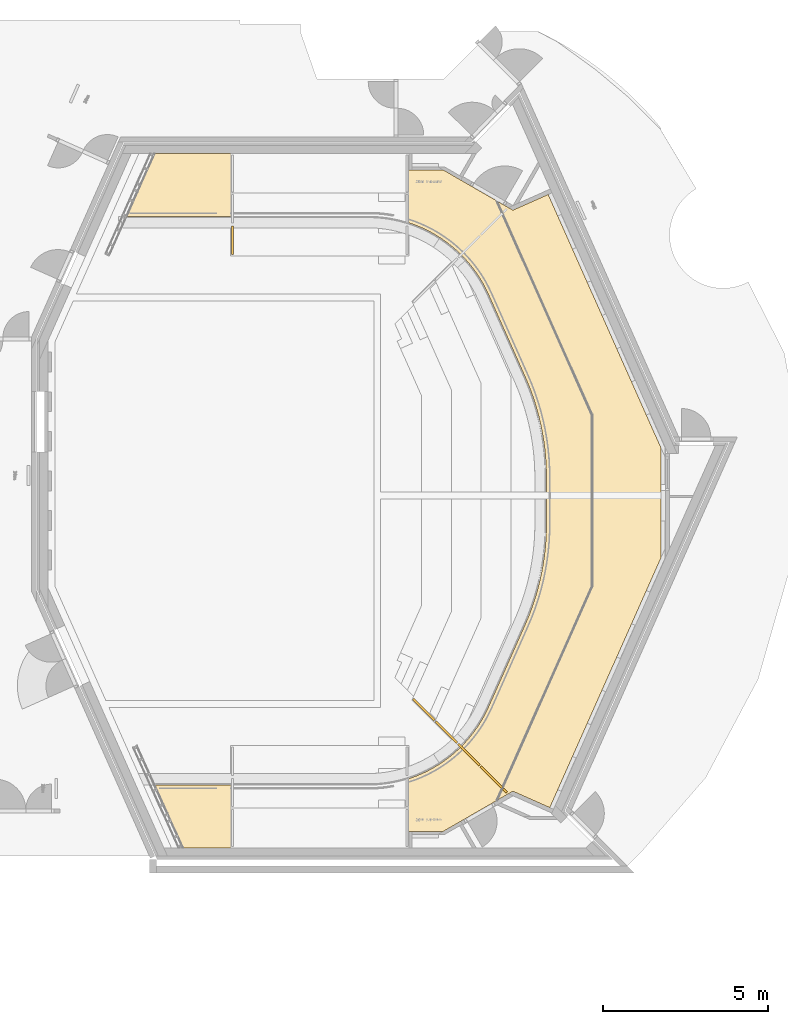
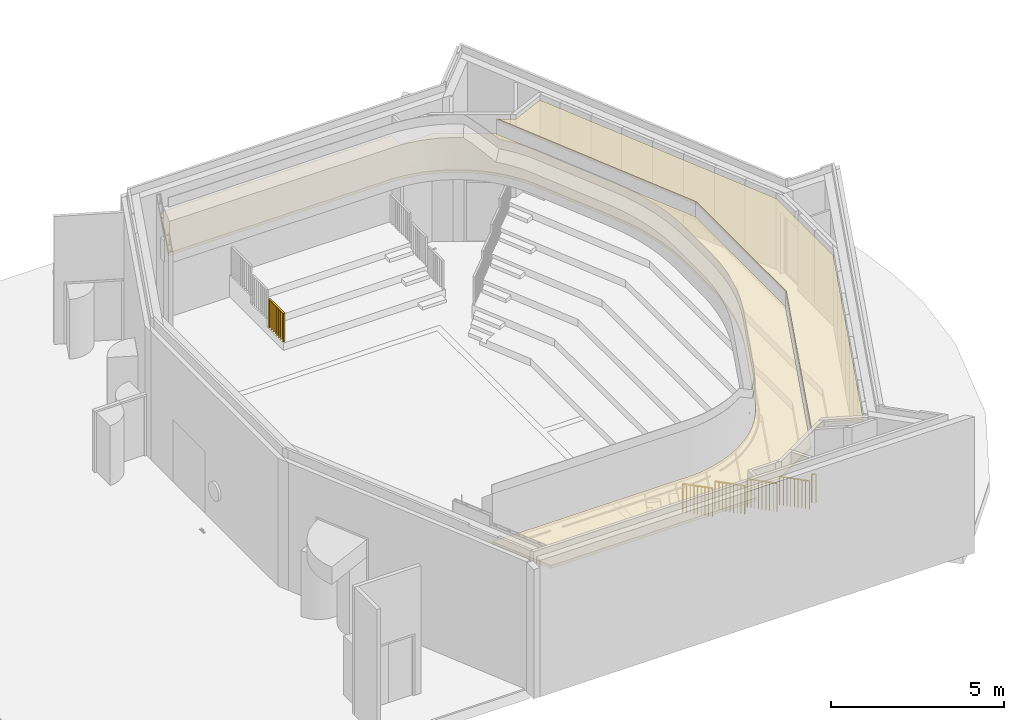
# One storey, part 15 of 19: 6 railings, 2 coverings.
"""IFC2X3 building model written with IfcOpenShell, lengths in millimetres."""

from ifc_helpers import new_model, entity, si_unit, converted_unit, derived_unit, direction, frame, frame_2d, origin, origin_2d_with_axis, place, context, subcontext, project, spatial, polyline, circle_curve, parameter, trimmed, segment, composite_curve, rectangle, outline, extrude, material, material_list, layer, layer_set, layer_usage, type_object, element, save


model = new_model("IFC2X3")

# Units and contexts
model_context = context("Model", 3, precision=0.01, world=origin(), true_north=direction((6.123031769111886e-17, 1.0)))
body_context = subcontext(model_context, "Body", "Model", "MODEL_VIEW")
ifc_project = project(units=[si_unit("LENGTHUNIT", "METRE", prefix="MILLI"), si_unit("AREAUNIT", "SQUARE_METRE"), si_unit("VOLUMEUNIT", "CUBIC_METRE"), converted_unit("PLANEANGLEUNIT", "DEGREE", entity("IfcRatioMeasure", 0.017453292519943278), si_unit("PLANEANGLEUNIT", "RADIAN"), dimensions=[0, 0, 0, 0, 0, 0, 0]), si_unit("MASSUNIT", "GRAM", prefix="KILO"), derived_unit("MASSDENSITYUNIT", [(si_unit("MASSUNIT", "GRAM", prefix="KILO"), 1), (si_unit("LENGTHUNIT", "METRE"), -3)]), derived_unit("MOMENTOFINERTIAUNIT", [(si_unit("LENGTHUNIT", "METRE"), 4)]), si_unit("TIMEUNIT", "SECOND"), si_unit("FREQUENCYUNIT", "HERTZ"), si_unit("THERMODYNAMICTEMPERATUREUNIT", "DEGREE_CELSIUS"), derived_unit("THERMALTRANSMITTANCEUNIT", [(si_unit("MASSUNIT", "GRAM", prefix="KILO"), 1), (si_unit("THERMODYNAMICTEMPERATUREUNIT", "KELVIN"), -1), (si_unit("TIMEUNIT", "SECOND"), -3)]), derived_unit("VOLUMETRICFLOWRATEUNIT", [(si_unit("LENGTHUNIT", "METRE"), 3), (si_unit("TIMEUNIT", "SECOND"), -1)]), derived_unit("MASSFLOWRATEUNIT", [(si_unit("MASSUNIT", "GRAM", prefix="KILO"), 1), (si_unit("TIMEUNIT", "SECOND"), -1)]), derived_unit("ROTATIONALFREQUENCYUNIT", [(si_unit("TIMEUNIT", "SECOND"), -1)]), si_unit("ELECTRICCURRENTUNIT", "AMPERE"), si_unit("ELECTRICVOLTAGEUNIT", "VOLT"), si_unit("POWERUNIT", "WATT"), si_unit("FORCEUNIT", "NEWTON", prefix="KILO"), si_unit("ILLUMINANCEUNIT", "LUX"), si_unit("LUMINOUSFLUXUNIT", "LUMEN"), si_unit("LUMINOUSINTENSITYUNIT", "CANDELA"), derived_unit("USERDEFINED", [(si_unit("MASSUNIT", "GRAM", prefix="KILO"), -1), (si_unit("LENGTHUNIT", "METRE"), -2), (si_unit("TIMEUNIT", "SECOND"), 3), (si_unit("LUMINOUSFLUXUNIT", "LUMEN"), 1)]), derived_unit("SOUNDPOWERUNIT", [(si_unit("MASSUNIT", "GRAM", prefix="KILO"), 1), (si_unit("LENGTHUNIT", "METRE"), 2), (si_unit("TIMEUNIT", "SECOND"), -3)]), derived_unit("SOUNDPRESSUREUNIT", [(si_unit("MASSUNIT", "GRAM", prefix="KILO"), 1), (si_unit("LENGTHUNIT", "METRE"), -1), (si_unit("TIMEUNIT", "SECOND"), -2)]), derived_unit("LINEARVELOCITYUNIT", [(si_unit("LENGTHUNIT", "METRE"), 1), (si_unit("TIMEUNIT", "SECOND"), -1)]), si_unit("PRESSUREUNIT", "PASCAL"), derived_unit("USERDEFINED", [(si_unit("LENGTHUNIT", "METRE"), -2), (si_unit("MASSUNIT", "GRAM", prefix="KILO"), 1), (si_unit("TIMEUNIT", "SECOND"), -2)]), derived_unit("LINEARFORCEUNIT", [(si_unit("MASSUNIT", "GRAM", prefix="KILO"), 1), (si_unit("LENGTHUNIT", "METRE"), 1), (si_unit("TIMEUNIT", "SECOND"), -2), (si_unit("LENGTHUNIT", "METRE"), -1)]), derived_unit("PLANARFORCEUNIT", [(si_unit("MASSUNIT", "GRAM", prefix="KILO"), 1), (si_unit("LENGTHUNIT", "METRE"), 1), (si_unit("TIMEUNIT", "SECOND"), -2), (si_unit("LENGTHUNIT", "METRE"), -2)])], contexts=[model_context])

# Site, building, storey
site_placement = place(None, frame((-10000.0, -10000.0, 0.0)))
site = spatial("IfcSite", under=ifc_project, at=site_placement, Name="Default", CompositionType="ELEMENT")
building_placement = place(site_placement, origin())
building = spatial("IfcBuilding", under=site, at=building_placement, CompositionType="ELEMENT")
storey_placement = place(building_placement, frame((0.0, 0.0, 4200.0)))
storey = spatial("IfcBuildingStorey", under=building, at=storey_placement, Name="01 1e verdieping", CompositionType="ELEMENT", Elevation=4200.000000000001)

# Coverings
ifc_material_1 = material(Name="NLRS_ontwerpmateriaal grijs")
ifc_layer = layer(ifc_material_1, 100.0)
ifc_layer_set = layer_set([ifc_layer], Name="Compound Ceiling:NLRS_45_CEI_ontwerpplafond 100mm_ags")
ifc_layer_usage_1 = layer_usage(ifc_layer_set, "AXIS3", "POSITIVE", 0.0)
covering_type_1 = type_object("IfcCoveringType", Name="Compound Ceiling:NLRS_45_CEI_ontwerpplafond 100mm_ags", PredefinedType="CEILING")
covering_1_placement = place(storey_placement, origin())
element("IfcCovering", 1, at=covering_1_placement, inside=storey, type_object=covering_type_1, material=ifc_layer_usage_1, Name="Compound Ceiling:NLRS_45_CEI_ontwerpplafond 100mm_ags", ObjectType="Compound Ceiling:NLRS_45_CEI_ontwerpplafond 100mm_ags", PredefinedType="CEILING", context=body_context, shape_type="SweptSolid", body=[
    extrude(outline(composite_curve([segment(polyline([(-8799.853885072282, -8613.641272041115), (-7953.9193829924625, -10513.641272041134)]), True, "CONTINUOUS"), segment(polyline([(-7953.9193829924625, -10513.641272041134), (-255.0343783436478, -10513.641272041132)]), True, "CONTINUOUS"), segment(polyline([(-255.0343783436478, -10513.641272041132), (-255.03437834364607, -10013.641272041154)]), True, "CONTINUOUS"), segment(polyline([(-255.03437834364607, -10013.641272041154), (792.1856637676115, -10013.641272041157)]), True, "CONTINUOUS"), segment(polyline([(792.1856637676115, -10013.641272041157), (2392.8172703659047, -9089.5161830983)]), True, "CONTINUOUS"), segment(polyline([(2392.8172703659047, -9089.5161830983), (5284.964833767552, -2593.6464001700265)]), True, "CONTINUOUS"), segment(polyline([(5284.964833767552, -2593.6464001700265), (5284.964833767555, 2593.3619196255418)]), True, "CONTINUOUS"), segment(polyline([(5284.964833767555, 2593.3619196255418), (2392.816109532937, 9089.234309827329)]), True, "CONTINUOUS"), segment(polyline([(2392.816109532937, 9089.234309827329), (792.1856637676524, 10013.35872856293)]), True, "CONTINUOUS"), segment(polyline([(792.1856637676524, 10013.35872856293), (-255.03437834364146, 10013.358728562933)]), True, "CONTINUOUS"), segment(polyline([(-255.03437834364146, 10013.358728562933), (-255.03437834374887, 10513.3587285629)]), True, "CONTINUOUS"), segment(polyline([(-255.03437834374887, 10513.3587285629), (-7098.385236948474, 10513.358728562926)]), True, "CONTINUOUS"), segment(polyline([(-7098.385236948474, 10513.358728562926), (-7957.471467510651, 8614.567430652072)]), True, "CONTINUOUS"), segment(polyline([(-7957.471467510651, 8614.567430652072), (-1372.4769191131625, 8614.56743065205)]), True, "CONTINUOUS"), segment(trimmed(circle_curve(frame_2d((-1498.9628833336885, 4616.568556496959), x_axis=(1.0, 0.0)), 3999.9992121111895), [parameter(24.32556288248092)], [parameter(88.18791958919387)], True, "PARAMETER"), False, "CONTINUOUS"), segment(polyline([(2145.914743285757, 6264.252016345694), (3261.5558341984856, 3757.4471048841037)]), True, "CONTINUOUS"), segment(trimmed(circle_curve(frame_2d((-3590.0351662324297, 706.9226022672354), x_axis=(1.0, 0.0)), 7499.999212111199), [parameter(359.99999999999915)], [parameter(24.00000000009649)], True, "PARAMETER"), False, "CONTINUOUS"), segment(polyline([(3909.9640458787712, 706.9226022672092), (3909.9640458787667, -707.2051457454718)]), True, "CONTINUOUS"), segment(trimmed(circle_curve(frame_2d((-3590.035166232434, -707.2051457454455), x_axis=(1.0, 0.0)), 7499.999212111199), [parameter(335.9999999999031)], [parameter(0.0)], True, "PARAMETER"), False, "CONTINUOUS"), segment(polyline([(3261.5558341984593, -3757.7296483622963), (2145.762406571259, -6263.842718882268)]), True, "CONTINUOUS"), segment(trimmed(circle_curve(frame_2d((-1498.8813736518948, -4615.6420599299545), x_axis=(1.0, 0.0)), 3999.9992121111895), [parameter(271.81192731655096)], [parameter(335.66630672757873)], True, "PARAMETER"), False, "CONTINUOUS"), segment(polyline([(-1372.4060920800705, -8613.641272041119), (-8799.853885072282, -8613.641272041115)]), True, "CONTINUOUS")], self_intersect=False)), frame((36965.03437834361, 38638.358727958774, 3725.0), z_axis=(0.0, 0.0, -1.0), x_axis=(1.0, 0.0, 0.0)), (0.0, 0.0, -1.0), 100.0),
])
ifc_layer_usage_2 = layer_usage(ifc_layer_set, "AXIS3", "POSITIVE", 0.0)
covering_type_2 = type_object("IfcCoveringType", Name="Compound Ceiling:NLRS_45_CEI_ontwerpplafond 100mm_ags", PredefinedType="CEILING")
covering_2_placement = place(storey_placement, origin())
element("IfcCovering", 2, at=covering_2_placement, inside=storey, type_object=covering_type_2, material=ifc_layer_usage_2, Name="Compound Ceiling:NLRS_45_CEI_ontwerpplafond 100mm_ags", ObjectType="Compound Ceiling:NLRS_45_CEI_ontwerpplafond 100mm_ags", PredefinedType="CEILING", context=body_context, shape_type="SweptSolid", body=[
    extrude(outline(polyline([(-3378.6640063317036, 8666.575567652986), (-3378.6640063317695, 251.94750402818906), (-2033.1011817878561, -2770.2360814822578), (4132.1071372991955, -8321.414585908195), (4950.58003162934, -7412.614215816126), (5483.001462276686, -7468.573963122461), (220.40507240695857, -2730.1108902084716), (-1893.6640063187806, 2018.1660031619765), (-1893.664006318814, 9099.685094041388), (-2208.336496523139, 8666.575567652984), (-3378.6640063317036, 8666.575567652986)])), frame((41365.91312613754, 38623.41011616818, 4245.0), z_axis=(0.0, 0.0, -1.0), x_axis=(-0.9135454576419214, -0.4067366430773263, 0.0)), (0.0, 0.0, -1.0), 100.0),
])

# Railings
ifc_material_2 = material(Name="Default Metal")
ifc_material_list_1 = material_list([ifc_material_2, ifc_material_2, ifc_material_2, ifc_material_2, ifc_material_2, ifc_material_2, ifc_material_2, ifc_material_2, ifc_material_2, ifc_material_2, ifc_material_2, ifc_material_2])
railing_1_placement = place(storey_placement, origin())
element("IfcRailing", 3, at=railing_1_placement, inside=storey, material=ifc_material_list_1, Name="Railing:NLRS_34_RAI_spijlenhekwerk hoofdtribune", ObjectType="Railing:NLRS_34_RAI_spijlenhekwerk hoofdtribune", PredefinedType="NOTDEFINED", context=body_context, shape_type="SweptSolid", body=[
    extrude(rectangle(XDim=59.999999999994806, YDim=10.00000000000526, at=origin_2d_with_axis()), frame((37477.772772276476, 31997.019771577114, 545.0), z_axis=(0.0, 0.0, 1.0), x_axis=(-0.7071067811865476, -0.7071067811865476, 0.0)), (0.0, 0.0, 1.0), 989.9999999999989),
    extrude(rectangle(XDim=59.999999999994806, YDim=10.00000000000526, at=origin_2d_with_axis()), frame((37399.99102634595, 32074.80151750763, 545.0), z_axis=(0.0, 0.0, 1.0), x_axis=(-0.7071067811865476, -0.7071067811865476, 0.0)), (0.0, 0.0, 1.0), 989.9999999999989),
    extrude(rectangle(XDim=59.999999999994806, YDim=10.00000000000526, at=frame_2d((3.062439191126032e-12, 3.062439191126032e-12), x_axis=(1.0, 0.0))), frame((37322.20928041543, 32152.583263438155, 545.0), z_axis=(0.0, 0.0, 1.0), x_axis=(-0.7071067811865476, -0.7071067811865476, 0.0)), (0.0, 0.0, 1.0), 989.9999999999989),
    extrude(rectangle(XDim=59.999999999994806, YDim=10.00000000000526, at=frame_2d((3.062439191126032e-12, -3.062439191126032e-12), x_axis=(1.0, 0.0))), frame((37244.427534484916, 32230.365009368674, 545.0), z_axis=(0.0, 0.0, 1.0), x_axis=(-0.7071067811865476, -0.7071067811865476, 0.0)), (0.0, 0.0, 1.0), 989.9999999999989),
    extrude(rectangle(XDim=59.999999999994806, YDim=10.00000000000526, at=frame_2d((3.062439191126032e-12, -3.062439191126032e-12), x_axis=(1.0, 0.0))), frame((37166.6457885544, 32308.146755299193, 545.0), z_axis=(0.0, 0.0, 1.0), x_axis=(-0.7071067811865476, -0.7071067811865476, 0.0)), (0.0, 0.0, 1.0), 989.9999999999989),
    extrude(rectangle(XDim=59.999999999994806, YDim=10.00000000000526, at=origin_2d_with_axis()), frame((37088.86404262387, 32385.928501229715, 545.0), z_axis=(0.0, 0.0, 1.0), x_axis=(-0.7071067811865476, -0.7071067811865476, 0.0)), (0.0, 0.0, 1.0), 989.9999999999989),
    extrude(rectangle(XDim=59.999999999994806, YDim=10.00000000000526, at=origin_2d_with_axis()), frame((37011.082296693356, 32463.710247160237, 545.0), z_axis=(0.0, 0.0, 1.0), x_axis=(-0.7071067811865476, -0.7071067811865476, 0.0)), (0.0, 0.0, 1.0), 989.9999999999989),
    extrude(rectangle(XDim=59.999999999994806, YDim=10.00000000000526, at=origin_2d_with_axis()), frame((36933.30055076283, 32541.491993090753, 545.0), z_axis=(0.0, 0.0, 1.0), x_axis=(-0.7071067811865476, -0.7071067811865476, 0.0)), (0.0, 0.0, 1.0), 989.9999999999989),
    extrude(rectangle(XDim=59.999999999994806, YDim=10.00000000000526, at=frame_2d((-3.062439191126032e-12, -3.062439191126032e-12), x_axis=(1.0, 0.0))), frame((36855.51880483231, 32619.27373902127, 545.0), z_axis=(0.0, 0.0, 1.0), x_axis=(-0.7071067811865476, -0.7071067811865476, 0.0)), (0.0, 0.0, 1.0), 989.9999999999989),
    extrude(rectangle(XDim=59.999999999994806, YDim=10.00000000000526, at=origin_2d_with_axis()), frame((37484.84384008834, 31989.948703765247, 545.0), z_axis=(0.0, 0.0, 1.0), x_axis=(-0.7071067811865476, -0.7071067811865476, 0.0)), (0.0, 0.0, 1.0), 989.9999999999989),
    extrude(rectangle(XDim=59.999999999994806, YDim=10.00000000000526, at=origin_2d_with_axis()), frame((36848.44773702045, 32626.34480683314, 545.0), z_axis=(0.0, 0.0, 1.0), x_axis=(-0.7071067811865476, -0.7071067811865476, 0.0)), (0.0, 0.0, 1.0), 989.9999999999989),
    extrude(rectangle(XDim=900.0000000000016, YDim=59.9999999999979, at=frame_2d((-3.097966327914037e-12, -1.5987211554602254e-14), x_axis=(1.0, 0.0))), frame((37166.64578855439, 32308.146755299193, 1535.0), z_axis=(0.0, 0.0, 1.0), x_axis=(0.7071067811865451, -0.70710678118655, 0.0)), (0.0, 0.0, 1.0), 9.999999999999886),
])
ifc_material_list_2 = material_list([ifc_material_2, ifc_material_2, ifc_material_2, ifc_material_2, ifc_material_2, ifc_material_2, ifc_material_2, ifc_material_2, ifc_material_2, ifc_material_2, ifc_material_2, ifc_material_2])
railing_2_placement = place(storey_placement, origin())
element("IfcRailing", 4, at=railing_2_placement, inside=storey, material=ifc_material_list_2, Name="Railing:NLRS_34_RAI_spijlenhekwerk hoofdtribune", ObjectType="Railing:NLRS_34_RAI_spijlenhekwerk hoofdtribune", PredefinedType="NOTDEFINED", context=body_context, shape_type="SweptSolid", body=[
    extrude(rectangle(XDim=59.999999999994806, YDim=10.00000000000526, at=origin_2d_with_axis()), frame((38159.445272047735, 31315.34727180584, 805.0), z_axis=(0.0, 0.0, 1.0), x_axis=(-0.7071067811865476, -0.7071067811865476, 0.0)), (0.0, 0.0, 1.0), 989.9999999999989),
    extrude(rectangle(XDim=59.999999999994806, YDim=10.00000000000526, at=origin_2d_with_axis()), frame((38081.66352611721, 31393.12901773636, 805.0), z_axis=(0.0, 0.0, 1.0), x_axis=(-0.7071067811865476, -0.7071067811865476, 0.0)), (0.0, 0.0, 1.0), 989.9999999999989),
    extrude(rectangle(XDim=59.999999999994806, YDim=10.00000000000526, at=frame_2d((-3.062439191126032e-12, -3.062439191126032e-12), x_axis=(1.0, 0.0))), frame((38003.88178018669, 31470.910763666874, 805.0), z_axis=(0.0, 0.0, 1.0), x_axis=(-0.7071067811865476, -0.7071067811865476, 0.0)), (0.0, 0.0, 1.0), 989.9999999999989),
    extrude(rectangle(XDim=59.999999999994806, YDim=10.00000000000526, at=origin_2d_with_axis()), frame((37926.10003425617, 31548.692509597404, 805.0), z_axis=(0.0, 0.0, 1.0), x_axis=(-0.7071067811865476, -0.7071067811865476, 0.0)), (0.0, 0.0, 1.0), 989.9999999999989),
    extrude(rectangle(XDim=59.999999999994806, YDim=10.00000000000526, at=origin_2d_with_axis()), frame((37848.31828832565, 31626.47425552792, 805.0), z_axis=(0.0, 0.0, 1.0), x_axis=(-0.7071067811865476, -0.7071067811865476, 0.0)), (0.0, 0.0, 1.0), 989.9999999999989),
    extrude(rectangle(XDim=59.999999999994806, YDim=10.00000000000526, at=frame_2d((3.062439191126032e-12, -3.062439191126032e-12), x_axis=(1.0, 0.0))), frame((37770.53654239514, 31704.25600145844, 805.0), z_axis=(0.0, 0.0, 1.0), x_axis=(-0.7071067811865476, -0.7071067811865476, 0.0)), (0.0, 0.0, 1.0), 989.9999999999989),
    extrude(rectangle(XDim=59.999999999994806, YDim=10.00000000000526, at=frame_2d((3.062439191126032e-12, -3.062439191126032e-12), x_axis=(1.0, 0.0))), frame((37692.754796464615, 31782.037747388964, 805.0), z_axis=(0.0, 0.0, 1.0), x_axis=(-0.7071067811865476, -0.7071067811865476, 0.0)), (0.0, 0.0, 1.0), 989.9999999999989),
    extrude(rectangle(XDim=59.999999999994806, YDim=10.00000000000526, at=origin_2d_with_axis()), frame((37614.97305053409, 31859.819493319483, 805.0), z_axis=(0.0, 0.0, 1.0), x_axis=(-0.7071067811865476, -0.7071067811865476, 0.0)), (0.0, 0.0, 1.0), 989.9999999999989),
    extrude(rectangle(XDim=59.999999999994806, YDim=10.00000000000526, at=frame_2d((3.062439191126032e-12, 3.062439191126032e-12), x_axis=(1.0, 0.0))), frame((37537.19130460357, 31937.60123925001, 805.0), z_axis=(0.0, 0.0, 1.0), x_axis=(-0.7071067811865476, -0.7071067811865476, 0.0)), (0.0, 0.0, 1.0), 989.9999999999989),
    extrude(rectangle(XDim=59.999999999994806, YDim=10.00000000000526, at=frame_2d((3.062439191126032e-12, -3.062439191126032e-12), x_axis=(1.0, 0.0))), frame((38166.5163398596, 31308.276203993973, 805.0), z_axis=(0.0, 0.0, 1.0), x_axis=(-0.7071067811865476, -0.7071067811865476, 0.0)), (0.0, 0.0, 1.0), 989.9999999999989),
    extrude(rectangle(XDim=59.999999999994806, YDim=10.00000000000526, at=origin_2d_with_axis()), frame((37530.12023679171, 31944.67230706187, 805.0), z_axis=(0.0, 0.0, 1.0), x_axis=(-0.7071067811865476, -0.7071067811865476, 0.0)), (0.0, 0.0, 1.0), 989.9999999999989),
    extrude(rectangle(XDim=900.0000000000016, YDim=59.9999999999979, at=frame_2d((-3.097966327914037e-12, -1.5987211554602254e-14), x_axis=(1.0, 0.0))), frame((37848.31828832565, 31626.47425552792, 1795.0), z_axis=(0.0, 0.0, 1.0), x_axis=(0.7071067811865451, -0.70710678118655, 0.0)), (0.0, 0.0, 1.0), 9.999999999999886),
])
ifc_material_list_3 = material_list([ifc_material_2, ifc_material_2, ifc_material_2, ifc_material_2, ifc_material_2, ifc_material_2, ifc_material_2, ifc_material_2, ifc_material_2, ifc_material_2, ifc_material_2, ifc_material_2])
railing_3_placement = place(storey_placement, origin())
element("IfcRailing", 5, at=railing_3_placement, inside=storey, material=ifc_material_list_3, Name="Railing:NLRS_34_RAI_spijlenhekwerk hoofdtribune", ObjectType="Railing:NLRS_34_RAI_spijlenhekwerk hoofdtribune", PredefinedType="NOTDEFINED", context=body_context, shape_type="SweptSolid", body=[
    extrude(rectangle(XDim=59.999999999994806, YDim=10.00000000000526, at=origin_2d_with_axis()), frame((38841.117771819, 30633.67477203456, 1065.0), z_axis=(0.0, 0.0, 1.0), x_axis=(-0.7071067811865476, -0.7071067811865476, 0.0)), (0.0, 0.0, 1.0), 989.9999999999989),
    extrude(rectangle(XDim=59.999999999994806, YDim=10.00000000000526, at=origin_2d_with_axis()), frame((38763.33602588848, 30711.456517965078, 1065.0), z_axis=(0.0, 0.0, 1.0), x_axis=(-0.7071067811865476, -0.7071067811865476, 0.0)), (0.0, 0.0, 1.0), 989.9999999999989),
    extrude(rectangle(XDim=59.999999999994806, YDim=10.00000000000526, at=origin_2d_with_axis()), frame((38685.55427995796, 30789.2382638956, 1065.0), z_axis=(0.0, 0.0, 1.0), x_axis=(-0.7071067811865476, -0.7071067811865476, 0.0)), (0.0, 0.0, 1.0), 989.9999999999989),
    extrude(rectangle(XDim=59.999999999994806, YDim=10.00000000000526, at=origin_2d_with_axis()), frame((38607.77253402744, 30867.020009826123, 1065.0), z_axis=(0.0, 0.0, 1.0), x_axis=(-0.7071067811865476, -0.7071067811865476, 0.0)), (0.0, 0.0, 1.0), 989.9999999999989),
    extrude(rectangle(XDim=59.999999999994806, YDim=10.00000000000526, at=origin_2d_with_axis()), frame((38529.990788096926, 30944.801755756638, 1065.0), z_axis=(0.0, 0.0, 1.0), x_axis=(-0.7071067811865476, -0.7071067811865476, 0.0)), (0.0, 0.0, 1.0), 989.9999999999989),
    extrude(rectangle(XDim=59.999999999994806, YDim=10.00000000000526, at=frame_2d((0.0, 6.124878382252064e-12), x_axis=(1.0, 0.0))), frame((38452.209042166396, 31022.583501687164, 1065.0), z_axis=(0.0, 0.0, 1.0), x_axis=(-0.7071067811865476, -0.7071067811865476, 0.0)), (0.0, 0.0, 1.0), 989.9999999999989),
    extrude(rectangle(XDim=59.999999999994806, YDim=10.00000000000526, at=frame_2d((-3.062439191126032e-12, 3.062439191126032e-12), x_axis=(1.0, 0.0))), frame((38374.42729623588, 31100.365247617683, 1065.0), z_axis=(0.0, 0.0, 1.0), x_axis=(-0.7071067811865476, -0.7071067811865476, 0.0)), (0.0, 0.0, 1.0), 989.9999999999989),
    extrude(rectangle(XDim=59.999999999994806, YDim=10.00000000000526, at=origin_2d_with_axis()), frame((38296.64555030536, 31178.146993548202, 1065.0), z_axis=(0.0, 0.0, 1.0), x_axis=(-0.7071067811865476, -0.7071067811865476, 0.0)), (0.0, 0.0, 1.0), 989.9999999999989),
    extrude(rectangle(XDim=59.999999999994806, YDim=10.00000000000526, at=origin_2d_with_axis()), frame((38218.86380437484, 31255.928739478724, 1065.0), z_axis=(0.0, 0.0, 1.0), x_axis=(-0.7071067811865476, -0.7071067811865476, 0.0)), (0.0, 0.0, 1.0), 989.9999999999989),
    extrude(rectangle(XDim=59.999999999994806, YDim=10.00000000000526, at=frame_2d((0.0, 6.124878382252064e-12), x_axis=(1.0, 0.0))), frame((38848.188839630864, 30626.6037042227, 1065.0), z_axis=(0.0, 0.0, 1.0), x_axis=(-0.7071067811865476, -0.7071067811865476, 0.0)), (0.0, 0.0, 1.0), 989.9999999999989),
    extrude(rectangle(XDim=59.999999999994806, YDim=10.00000000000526, at=origin_2d_with_axis()), frame((38211.79273656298, 31262.999807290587, 1065.0), z_axis=(0.0, 0.0, 1.0), x_axis=(-0.7071067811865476, -0.7071067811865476, 0.0)), (0.0, 0.0, 1.0), 989.9999999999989),
    extrude(rectangle(XDim=900.0000000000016, YDim=59.9999999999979, at=frame_2d((-3.097966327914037e-12, -1.5987211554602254e-14), x_axis=(1.0, 0.0))), frame((38529.990788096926, 30944.801755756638, 2055.0), z_axis=(0.0, 0.0, 1.0), x_axis=(0.7071067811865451, -0.70710678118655, 0.0)), (0.0, 0.0, 1.0), 9.999999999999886),
])
ifc_material_list_4 = material_list([ifc_material_2, ifc_material_2, ifc_material_2, ifc_material_2, ifc_material_2, ifc_material_2, ifc_material_2, ifc_material_2, ifc_material_2, ifc_material_2, ifc_material_2, ifc_material_2])
railing_4_placement = place(storey_placement, origin())
element("IfcRailing", 6, at=railing_4_placement, inside=storey, material=ifc_material_list_4, Name="Railing:NLRS_34_RAI_spijlenhekwerk hoofdtribune", ObjectType="Railing:NLRS_34_RAI_spijlenhekwerk hoofdtribune", PredefinedType="NOTDEFINED", context=body_context, shape_type="SweptSolid", body=[
    extrude(rectangle(XDim=60.000000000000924, YDim=9.999999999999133, at=origin_2d_with_axis()), frame((39522.79027159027, 29952.002272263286, 1325.0), z_axis=(0.0, 0.0, 1.0), x_axis=(-0.7071067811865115, -0.7071067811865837, 0.0)), (0.0, 0.0, 1.0), 989.9999999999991),
    extrude(rectangle(XDim=60.000000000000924, YDim=9.999999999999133, at=origin_2d_with_axis()), frame((39445.00852565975, 30029.784018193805, 1325.0), z_axis=(0.0, 0.0, 1.0), x_axis=(-0.7071067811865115, -0.7071067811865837, 0.0)), (0.0, 0.0, 1.0), 989.9999999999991),
    extrude(rectangle(XDim=60.000000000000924, YDim=9.999999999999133, at=origin_2d_with_axis()), frame((39367.22677972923, 30107.565764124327, 1325.0), z_axis=(0.0, 0.0, 1.0), x_axis=(-0.7071067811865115, -0.7071067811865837, 0.0)), (0.0, 0.0, 1.0), 989.9999999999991),
    extrude(rectangle(XDim=60.000000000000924, YDim=9.999999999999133, at=origin_2d_with_axis()), frame((39289.445033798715, 30185.34751005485, 1325.0), z_axis=(0.0, 0.0, 1.0), x_axis=(-0.7071067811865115, -0.7071067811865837, 0.0)), (0.0, 0.0, 1.0), 989.9999999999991),
    extrude(rectangle(XDim=60.000000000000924, YDim=9.999999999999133, at=origin_2d_with_axis()), frame((39211.663287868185, 30263.12925598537, 1325.0), z_axis=(0.0, 0.0, 1.0), x_axis=(-0.7071067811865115, -0.7071067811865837, 0.0)), (0.0, 0.0, 1.0), 989.9999999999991),
    extrude(rectangle(XDim=60.000000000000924, YDim=9.999999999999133, at=frame_2d((-3.062439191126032e-12, -3.062883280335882e-12), x_axis=(1.0, 0.0))), frame((39133.88154193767, 30340.911001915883, 1325.0), z_axis=(0.0, 0.0, 1.0), x_axis=(-0.7071067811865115, -0.7071067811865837, 0.0)), (0.0, 0.0, 1.0), 989.9999999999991),
    extrude(rectangle(XDim=60.000000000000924, YDim=9.999999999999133, at=origin_2d_with_axis()), frame((39056.099796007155, 30418.692747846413, 1325.0), z_axis=(0.0, 0.0, 1.0), x_axis=(-0.7071067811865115, -0.7071067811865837, 0.0)), (0.0, 0.0, 1.0), 989.9999999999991),
    extrude(rectangle(XDim=59.999999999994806, YDim=10.00000000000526, at=origin_2d_with_axis()), frame((38978.31805007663, 30496.47449377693, 1325.0), z_axis=(0.0, 0.0, 1.0), x_axis=(-0.7071067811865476, -0.7071067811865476, 0.0)), (0.0, 0.0, 1.0), 989.9999999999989),
    extrude(rectangle(XDim=59.999999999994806, YDim=10.00000000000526, at=origin_2d_with_axis()), frame((38900.53630414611, 30574.25623970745, 1325.0), z_axis=(0.0, 0.0, 1.0), x_axis=(-0.7071067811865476, -0.7071067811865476, 0.0)), (0.0, 0.0, 1.0), 989.9999999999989),
    extrude(rectangle(XDim=60.000000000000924, YDim=9.999999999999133, at=frame_2d((-3.062439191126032e-12, -3.062883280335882e-12), x_axis=(1.0, 0.0))), frame((39529.86133940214, 29944.93120445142, 1325.0), z_axis=(0.0, 0.0, 1.0), x_axis=(-0.7071067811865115, -0.7071067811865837, 0.0)), (0.0, 0.0, 1.0), 989.9999999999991),
    extrude(rectangle(XDim=59.999999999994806, YDim=10.00000000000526, at=origin_2d_with_axis()), frame((38893.46523633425, 30581.327307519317, 1325.0), z_axis=(0.0, 0.0, 1.0), x_axis=(-0.7071067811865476, -0.7071067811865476, 0.0)), (0.0, 0.0, 1.0), 989.9999999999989),
    extrude(rectangle(XDim=899.9999999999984, YDim=59.99999999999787, at=frame_2d((-6.0822458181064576e-12, -6.124878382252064e-12), x_axis=(1.0, 0.0))), frame((39211.6632878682, 30263.12925598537, 2315.0), z_axis=(0.0, 0.0, 1.0), x_axis=(0.7071067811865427, -0.7071067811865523, 0.0)), (0.0, 0.0, 1.0), 9.999999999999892),
])
ifc_material_list_5 = material_list([ifc_material_2, ifc_material_2, ifc_material_2, ifc_material_2, ifc_material_2])
railing_5_placement = place(storey_placement, origin())
element("IfcRailing", 7, at=railing_5_placement, inside=storey, material=ifc_material_list_5, Name="Railing:NLRS_34_RAI_spijlenhekwerk hoofdtribune", ObjectType="Railing:NLRS_34_RAI_spijlenhekwerk hoofdtribune", PredefinedType="NOTDEFINED", context=body_context, shape_type="SweptSolid", body=[
    extrude(rectangle(XDim=60.000000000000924, YDim=9.999999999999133, at=origin_2d_with_axis()), frame((39661.86430460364, 29812.92823924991, 1585.0), z_axis=(0.0, 0.0, 1.0), x_axis=(-0.7071067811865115, -0.7071067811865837, 0.0)), (0.0, 0.0, 1.0), 989.9999999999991),
    extrude(rectangle(XDim=60.000000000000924, YDim=9.999999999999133, at=origin_2d_with_axis()), frame((39584.082558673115, 29890.70998518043, 1585.0), z_axis=(0.0, 0.0, 1.0), x_axis=(-0.7071067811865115, -0.7071067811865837, 0.0)), (0.0, 0.0, 1.0), 989.9999999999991),
    extrude(rectangle(XDim=60.000000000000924, YDim=9.999999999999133, at=origin_2d_with_axis()), frame((39670.80912717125, 29803.983416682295, 1585.0), z_axis=(0.0, 0.0, 1.0), x_axis=(-0.7071067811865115, -0.7071067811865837, 0.0)), (0.0, 0.0, 1.0), 989.9999999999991),
    extrude(rectangle(XDim=60.000000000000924, YDim=9.999999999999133, at=origin_2d_with_axis()), frame((39575.1377361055, 29899.654807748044, 1585.0), z_axis=(0.0, 0.0, 1.0), x_axis=(-0.7071067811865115, -0.7071067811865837, 0.0)), (0.0, 0.0, 1.0), 989.9999999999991),
    extrude(rectangle(XDim=135.29977877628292, YDim=59.99999999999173, at=frame_2d((4.590106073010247e-12, 1.531219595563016e-12), x_axis=(1.0, 0.0))), frame((39622.97343163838, 29851.819112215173, 2575.0), z_axis=(0.0, 0.0, 1.0), x_axis=(0.7071067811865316, -0.7071067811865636, 0.0)), (0.0, 0.0, 1.0), 9.999999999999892),
])
ifc_material_list_6 = material_list([ifc_material_2, ifc_material_2, ifc_material_2, ifc_material_2, ifc_material_2, ifc_material_2, ifc_material_2, ifc_material_2, ifc_material_2, ifc_material_2, ifc_material_2])
railing_6_placement = place(storey_placement, origin())
element("IfcRailing", 8, at=railing_6_placement, inside=storey, material=ifc_material_list_6, Name="Railing:NLRS_34_RAI_spijlenhekwerk hoofdtribune", ObjectType="Railing:NLRS_34_RAI_spijlenhekwerk hoofdtribune", PredefinedType="NOTDEFINED", context=body_context, shape_type="SweptSolid", body=[
    extrude(rectangle(XDim=9.999999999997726, YDim=59.99999999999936, at=origin_2d_with_axis()), frame((31365.0, 46912.0, 285.0), z_axis=(0.0, 0.0, 1.0), x_axis=(0.0, 1.0, 0.0)), (0.0, 0.0, 1.0), 989.9999999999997),
    extrude(rectangle(XDim=9.999999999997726, YDim=59.99999999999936, at=origin_2d_with_axis()), frame((31365.0, 46802.0, 285.0), z_axis=(0.0, 0.0, 1.0), x_axis=(0.0, 1.0, 0.0)), (0.0, 0.0, 1.0), 989.9999999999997),
    extrude(rectangle(XDim=9.999999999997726, YDim=59.99999999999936, at=origin_2d_with_axis()), frame((31365.0, 46692.0, 285.0), z_axis=(0.0, 0.0, 1.0), x_axis=(0.0, 1.0, 0.0)), (0.0, 0.0, 1.0), 989.9999999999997),
    extrude(rectangle(XDim=9.999999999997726, YDim=59.99999999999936, at=origin_2d_with_axis()), frame((31365.0, 46582.0, 285.0), z_axis=(0.0, 0.0, 1.0), x_axis=(0.0, 1.0, 0.0)), (0.0, 0.0, 1.0), 989.9999999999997),
    extrude(rectangle(XDim=9.999999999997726, YDim=59.99999999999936, at=origin_2d_with_axis()), frame((31365.0, 46472.0, 285.0), z_axis=(0.0, 0.0, 1.0), x_axis=(0.0, 1.0, 0.0)), (0.0, 0.0, 1.0), 989.9999999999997),
    extrude(rectangle(XDim=9.999999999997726, YDim=59.99999999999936, at=origin_2d_with_axis()), frame((31365.0, 46362.0, 285.0), z_axis=(0.0, 0.0, 1.0), x_axis=(0.0, 1.0, 0.0)), (0.0, 0.0, 1.0), 989.9999999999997),
    extrude(rectangle(XDim=9.999999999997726, YDim=59.99999999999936, at=origin_2d_with_axis()), frame((31365.0, 46252.0, 285.0), z_axis=(0.0, 0.0, 1.0), x_axis=(0.0, 1.0, 0.0)), (0.0, 0.0, 1.0), 989.9999999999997),
    extrude(rectangle(XDim=9.999999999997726, YDim=59.99999999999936, at=origin_2d_with_axis()), frame((31365.0, 46142.0, 285.0), z_axis=(0.0, 0.0, 1.0), x_axis=(0.0, 1.0, 0.0)), (0.0, 0.0, 1.0), 989.9999999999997),
    extrude(rectangle(XDim=9.999999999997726, YDim=59.99999999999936, at=origin_2d_with_axis()), frame((31365.0, 46952.0, 285.0), z_axis=(0.0, 0.0, 1.0), x_axis=(0.0, 1.0, 0.0)), (0.0, 0.0, 1.0), 989.9999999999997),
    extrude(rectangle(XDim=9.999999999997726, YDim=59.99999999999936, at=origin_2d_with_axis()), frame((31365.0, 46102.0, 285.0), z_axis=(0.0, 0.0, 1.0), x_axis=(0.0, 1.0, 0.0)), (0.0, 0.0, 1.0), 989.9999999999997),
    extrude(rectangle(XDim=850.0000000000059, YDim=59.99999999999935, at=frame_2d((4.348521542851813e-12, 4.330757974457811e-12), x_axis=(1.0, 0.0))), frame((31365.0, 46527.0, 1275.0), z_axis=(0.0, 0.0, 1.0), x_axis=(0.0, 1.0, 0.0)), (0.0, 0.0, 1.0), 9.999999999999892),
])

save(model, "model.ifc")
